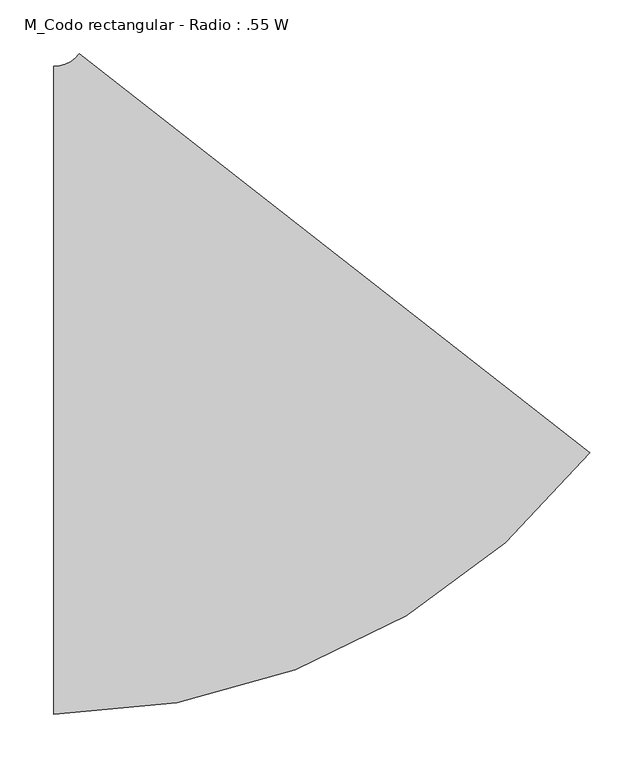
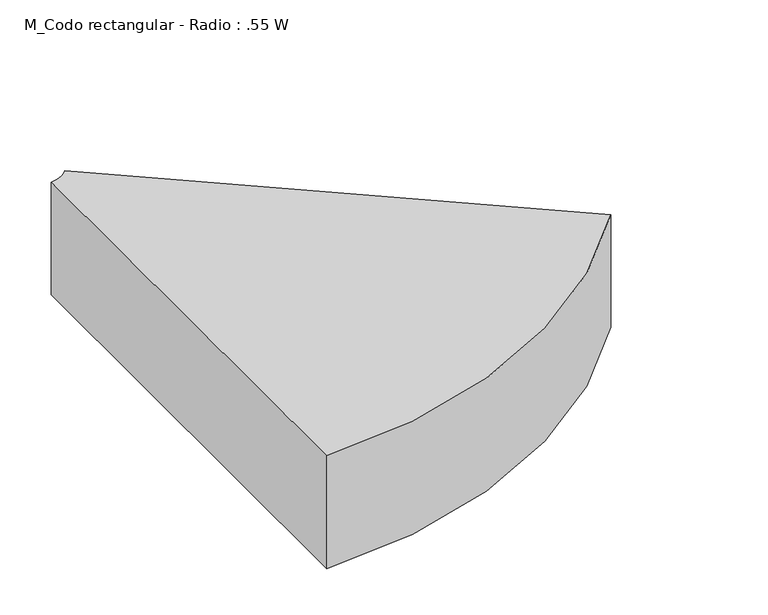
"""IFC4 building model written with IfcOpenShell, lengths in millimetres: duct fitting geometry, M_Codo rectangular - Radio : .55 W."""

from ifc_helpers import new_model, si_unit, point, frame, frame_2d, origin, place, context, project, spatial, polyline, circle_curve, trimmed, segment, composite_curve, outline, extrude, source, transform, mapped, element, save


def m_codo_rectangular_radio_55_w_5949a661(model_context):
    return source(origin(), model_context, "Body", "SweptSolid", [
        extrude(outline(composite_curve([segment(trimmed(circle_curve(frame_2d((-160.9517542, 330.0)), 630.0), [point((335.4950205, -57.8667295))], [point((-160.9517542, -300.0))], False, "CARTESIAN"), True, "CONTINUOUS"), segment(polyline([(-160.9517542, -300.0), (-160.9517542, 300.0)]), True, "CONTINUOUS"), segment(trimmed(circle_curve(frame_2d((-160.9517542, 330.0)), 30.0), [point((-160.9517542, 300.0))], [point((-137.3114316, 311.5301557))], True, "CARTESIAN"), True, "CONTINUOUS"), segment(polyline([(-137.3114316, 311.5301557), (335.4950205, -57.8667295)]), True, "CONTINUOUS")], self_intersect=False)), frame((0.0, 0.0, -75.0), z_axis=(0.0, 0.0, 1.0), x_axis=(1.0, 0.0, 0.0)), (0.0, 0.0, 1.0), 150.0),
    ])


if __name__ == "__main__":
    model = new_model("IFC4")
    model_context = context("Model", 3, world=origin())
    ifc_project = project(units=[si_unit("LENGTHUNIT", "METRE", prefix="MILLI")], contexts=[model_context])
    site = spatial("IfcSite", under=ifc_project)
    building = spatial("IfcBuilding", under=site)
    placement = place(None, origin())
    m_codo_rectangular_radio_55_w_shape = m_codo_rectangular_radio_55_w_5949a661(model_context)
    element("IfcDuctFitting", 1, ObjectType="M_Codo rectangular - Radio : .55 W", at=placement, inside=building, context=model_context, shape_type="MappedRepresentation", body=[
        mapped(m_codo_rectangular_radio_55_w_shape, transform((0.0, 0.0, 0.0), x_axis=(1.0, 0.0, 0.0), y_axis=(0.0, 1.0, 0.0), z_axis=(0.0, 0.0, 1.0))),
    ])
    save(model, "model.ifc")
